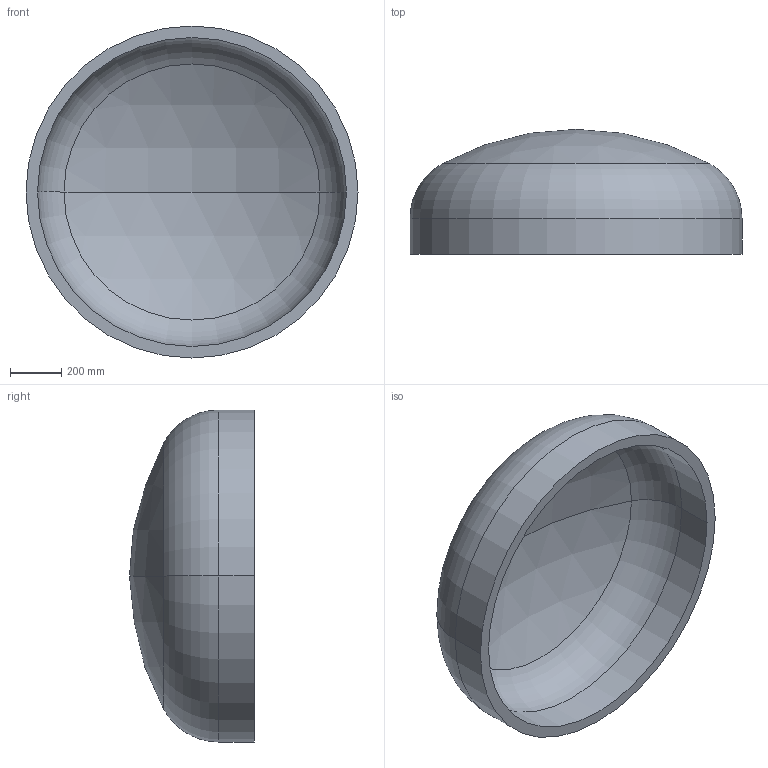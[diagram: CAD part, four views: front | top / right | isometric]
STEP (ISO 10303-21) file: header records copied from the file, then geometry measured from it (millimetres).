
FILE_DESCRIPTION (( 'STEP AP203' ), '1' );
FILE_NAME ('DIN 28013 Korbbogenform_-_Boden DIN 28013 - 1300 x 140 - I - s=45.step', '2016-07-01T09:52:54', ( '' ), ( '' ), 'SwSTEP 2.0', 'SolidWorks 2013', '' );
FILE_SCHEMA (( 'CONFIG_CONTROL_DESIGN' ));
Length unit declared in the file: millimetre
Products named in the file (1): DIN 28013 Korbbogenform_-_Boden DIN 28013 - 1300 x 140 - I - s=45
Bounding box: 1300 x 489.08 x 1300 mm (x, y, z)
Volume: 103903480.4 mm3; surface area: 4799593.9 mm2
Topology: 1 solids, 1 shells, 13 faces, 24 edges, 14 vertices
Faces by surface type: torus 4, cylinder 4, sphere 4, plane 1
Entity records: 407 total; most frequent: DIRECTION 72, CARTESIAN_POINT 52, ORIENTED_EDGE 48, AXIS2_PLACEMENT_3D 34, EDGE_CURVE 24, CIRCLE 20, EDGE_LOOP 14, VERTEX_POINT 14
